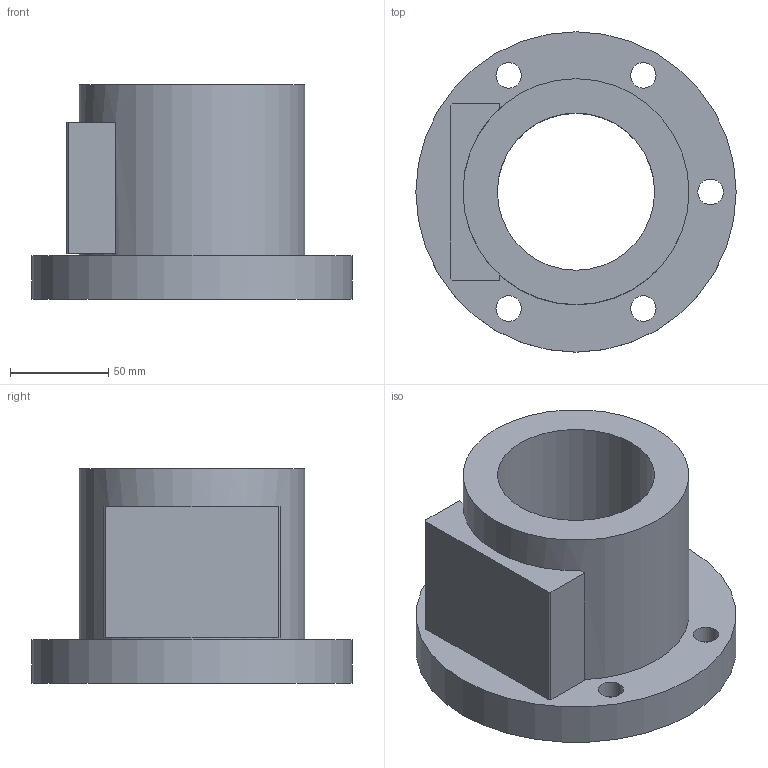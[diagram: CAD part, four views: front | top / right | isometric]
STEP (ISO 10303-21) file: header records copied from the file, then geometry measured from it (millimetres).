
FILE_DESCRIPTION(/* description */ (''),/* implementation_level */ '2;1');
FILE_NAME(/* name */ '80-10B2',/* time_stamp */ '2006-07-31T13:06:14+08:00',/* author */ (''),/* organization */ (''),/* preprocessor_version */ 'ST-DEVELOPER v9',/* originating_system */ 'UGS - NX 4.0',/* authorisation */ '');
FILE_SCHEMA (('CONFIG_CONTROL_DESIGN'));
Length unit declared in the file: millimetre
Products named in the file (1): 80-10B2
Bounding box: 163 x 163 x 109 mm (x, y, z)
Volume: 866697.6 mm3; surface area: 112013.7 mm2
Topology: 1 solids, 1 shells, 30 faces, 67 edges, 46 vertices
Faces by surface type: plane 17, cylinder 13
Full cylindrical faces by diameter (mm): 13 x5, 20 x5, 80 x1, 115 x1, 163 x1
Entity records: 860 total; most frequent: DIRECTION 140, CARTESIAN_POINT 123, ORIENTED_EDGE 100, EDGE_LOOP 62, AXIS2_PLACEMENT_3D 59, EDGE_CURVE 50, FACE_BOUND 45, VERTEX_POINT 42
